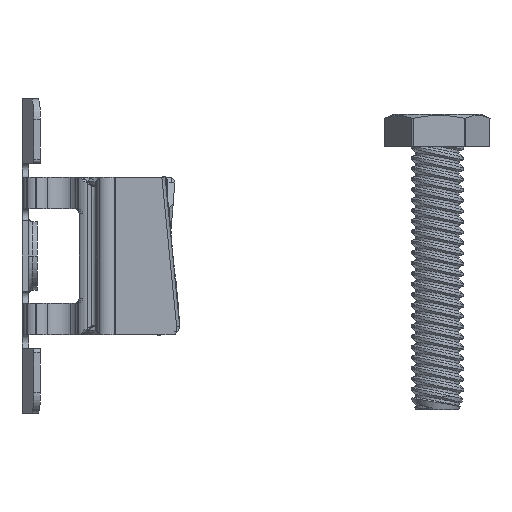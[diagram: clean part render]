
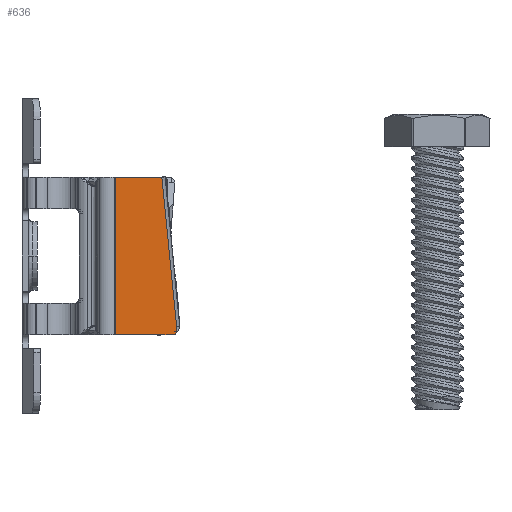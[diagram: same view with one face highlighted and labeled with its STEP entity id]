
A CAD part, left-side view. The second image highlights one B-rep face of the part: STEP entity #636.
In plain terms, the highlighted planar face has unit normal (-0.643, -0.766, 0).
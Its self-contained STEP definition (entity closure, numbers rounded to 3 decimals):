
#598 = DIRECTION ( 'NONE',  ( 0.766, -0.643, 0. ) ) ;
#610 = CARTESIAN_POINT ( 'NONE',  ( -1.424, -20.949, -5.715 ) ) ;
#636 = ADVANCED_FACE ( 'NONE', ( #20256 ), #14704, .F. ) ;
#728 = CARTESIAN_POINT ( 'NONE',  ( -6.253, -16.897, 9.525 ) ) ;
#1077 = CARTESIAN_POINT ( 'NONE',  ( -6.407, -16.768, 10.838 ) ) ;
#1621 = CARTESIAN_POINT ( 'NONE',  ( -4.343, -18.5, -9.525 ) ) ;
#2439 = DIRECTION ( 'NONE',  ( 0.116, -0.097, -0.988 ) ) ;
#2561 = DIRECTION ( 'NONE',  ( 0.542, -0.455, 0.707 ) ) ;
#3592 = CARTESIAN_POINT ( 'NONE',  ( -12.979, -11.253, 9.525 ) ) ;
#3605 = EDGE_LOOP ( 'NONE', ( #8199, #18808, #14066, #3772, #8097 ) ) ;
#3772 = ORIENTED_EDGE ( 'NONE', *, *, #11724, .T. ) ;
#4396 = LINE ( 'NONE', #1077, #5672 ) ;
#4708 = VERTEX_POINT ( 'NONE', #20519 ) ;
#5672 = VECTOR ( 'NONE', #2439, 1000. ) ;
#6370 = CARTESIAN_POINT ( 'NONE',  ( -4.063, -18.734, -9.16 ) ) ;
#7578 = VECTOR ( 'NONE', #9487, 1000. ) ;
#8097 = ORIENTED_EDGE ( 'NONE', *, *, #16697, .T. ) ;
#8199 = ORIENTED_EDGE ( 'NONE', *, *, #13087, .F. ) ;
#9487 = DIRECTION ( 'NONE',  ( 0., 0., -1. ) ) ;
#9598 = VERTEX_POINT ( 'NONE', #728 ) ;
#11323 = VECTOR ( 'NONE', #15392, 1000. ) ;
#11567 = VERTEX_POINT ( 'NONE', #19102 ) ;
#11724 = EDGE_CURVE ( 'NONE', #4708, #11782, #19589, .T. ) ;
#11782 = VERTEX_POINT ( 'NONE', #1621 ) ;
#11888 = LINE ( 'NONE', #21232, #22600 ) ;
#12754 = DIRECTION ( 'NONE',  ( 0., 0., -1. ) ) ;
#13087 = EDGE_CURVE ( 'NONE', #9598, #21233, #4396, .T. ) ;
#14066 = ORIENTED_EDGE ( 'NONE', *, *, #15798, .T. ) ;
#14704 = PLANE ( 'NONE',  #15526 ) ;
#14998 = LINE ( 'NONE', #3592, #7578 ) ;
#15248 = EDGE_CURVE ( 'NONE', #11567, #9598, #11888, .T. ) ;
#15392 = DIRECTION ( 'NONE',  ( 0.766, -0.643, 0. ) ) ;
#15526 = AXIS2_PLACEMENT_3D ( 'NONE', #16436, #20610, #12754 ) ;
#15798 = EDGE_CURVE ( 'NONE', #11567, #4708, #14998, .T. ) ;
#16436 = CARTESIAN_POINT ( 'NONE',  ( -12.979, -11.253, 9.525 ) ) ;
#16697 = EDGE_CURVE ( 'NONE', #11782, #21233, #17437, .T. ) ;
#17437 = LINE ( 'NONE', #610, #21348 ) ;
#17499 = CARTESIAN_POINT ( 'NONE',  ( -12.979, -11.253, -9.525 ) ) ;
#18808 = ORIENTED_EDGE ( 'NONE', *, *, #15248, .F. ) ;
#19102 = CARTESIAN_POINT ( 'NONE',  ( -12.979, -11.253, 9.525 ) ) ;
#19589 = LINE ( 'NONE', #17499, #11323 ) ;
#20256 = FACE_OUTER_BOUND ( 'NONE', #3605, .T. ) ;
#20519 = CARTESIAN_POINT ( 'NONE',  ( -12.979, -11.253, -9.525 ) ) ;
#20610 = DIRECTION ( 'NONE',  ( 0.643, 0.766, 0. ) ) ;
#21232 = CARTESIAN_POINT ( 'NONE',  ( -12.979, -11.253, 9.525 ) ) ;
#21233 = VERTEX_POINT ( 'NONE', #6370 ) ;
#21348 = VECTOR ( 'NONE', #2561, 1000. ) ;
#22600 = VECTOR ( 'NONE', #598, 1000. ) ;
